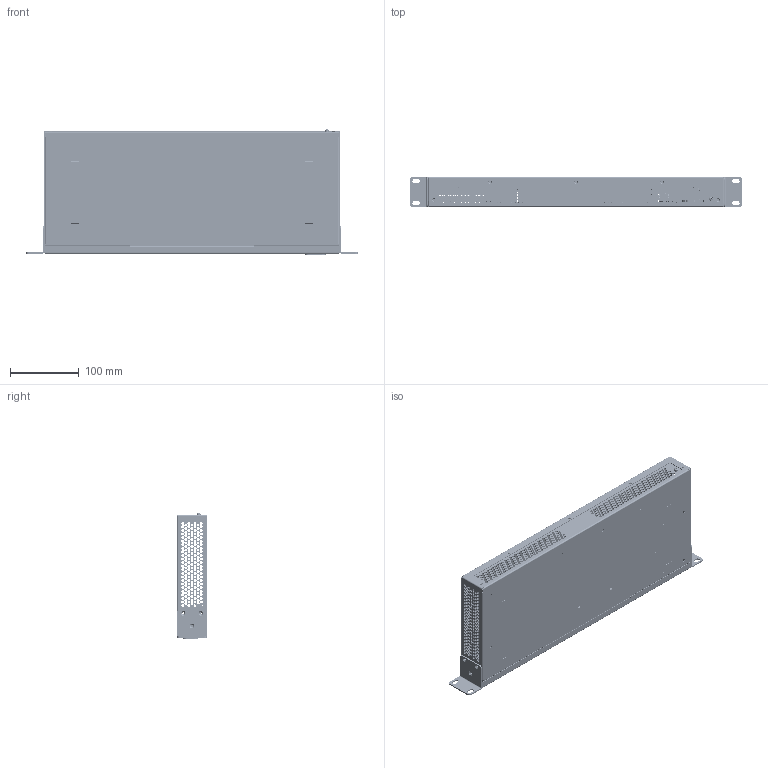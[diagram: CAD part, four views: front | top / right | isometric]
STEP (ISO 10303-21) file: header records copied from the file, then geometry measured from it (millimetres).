
FILE_DESCRIPTION (( 'STEP AP214' ), '1' );
FILE_NAME ('MES2124M AC.STEP', '2025-03-20T09:30:42', ( '' ), ( '' ), 'SwSTEP 2.0', 'SolidWorks 2023', '' );
FILE_SCHEMA (( 'AUTOMOTIVE_DESIGN' ));
Length unit declared in the file: millimetre
Products named in the file (22): _SFP_CAGE_1X1_2_SFP_CAGE_1X1_2; MES2124M AC; _SC9R1_SC9R1; _Plate MES2124M (1v7); _MES2124M.19.1.011; __DIN7985 M3_M3x8; _Plate spm35-220x12_3v2 (ALL)_no ware; _MES2124M.19.1.000_mes2124; _Plate spm35-220x12 (3v2); _SFP_CAGE_1X1_SFP_CAGE_1X1; _RJ45_2X2_LED_RJ45_2X2_LED_U59(311-09)G8-28-2622-C12; _RJ45_2X4_8P8C_WL_RJ45_2X4_8P8C_WL_kingsun 3027s-48831; _MES2124M.19.1.010; _MES2124M.19.1.020; _mes1024.19.1.005_Flange for W=430mm 19 inch case; _RJ45_1X1_SH_RJ45_1X1_SH_3019AB5611(KINSUN); _SFP_CAGE_1X1_1_SFP_CAGE_1X1_1; _LP4LP_LP4LP_LP4-EP; _DIN6798 А_DIN 6798A-3.2; _SWT42_SWT42_SWT-42-4.3; _MES2124M.19.1.031_MES2124M.19.1.031; _MES2124M.19.1.021
Assembly tree (30 placements, depth 4):
  MES2124M AC
    _MES2124M.19.1.000_mes2124
      _mes1024.19.1.005_Flange for W=430mm 19 inch case  x2
      _MES2124M.19.1.010
        _MES2124M.19.1.011
      _MES2124M.19.1.020
        _MES2124M.19.1.021
      _MES2124M.19.1.031_MES2124M.19.1.031
    _Plate MES2124M (1v7)
      _RJ45_2X2_LED_RJ45_2X2_LED_U59(311-09)G8-28-2622-C12
      _RJ45_1X1_SH_RJ45_1X1_SH_3019AB5611(KINSUN)
      _SWT42_SWT42_SWT-42-4.3
      _SFP_CAGE_1X1_SFP_CAGE_1X1  x4
        _SFP_CAGE_1X1_1_SFP_CAGE_1X1_1
        _SFP_CAGE_1X1_2_SFP_CAGE_1X1_2
      _RJ45_2X4_8P8C_WL_RJ45_2X4_8P8C_WL_kingsun 3027s-48831  x3
    _Plate spm35-220x12_3v2 (ALL)_no ware
      _Plate spm35-220x12 (3v2)
        _SC9R1_SC9R1
    _DIN6798 А_DIN 6798A-3.2
    __DIN7985 M3_M3x8
    _LP4LP_LP4LP_LP4-EP  x4
Bounding box: 482.6 x 43.6 x 182.45 mm (x, y, z)
Volume: 362669.2 mm3; surface area: 516702.3 mm2
Topology: 35 solids, 35 shells, 13327 faces, 38904 edges, 25720 vertices
Faces by surface type: plane 10604, cylinder 2482, cone 109, torus 50, bspline 48, sphere 34
Entity records: 254650 total; most frequent: CARTESIAN_POINT 46011, ORIENTED_EDGE 44450, DIRECTION 40012, EDGE_CURVE 22225, VECTOR 19626, LINE 19626, VERTEX_POINT 14688, AXIS2_PLACEMENT_3D 10193
